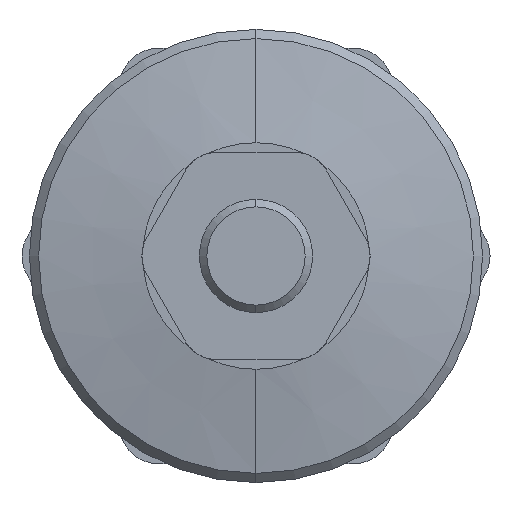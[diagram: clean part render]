
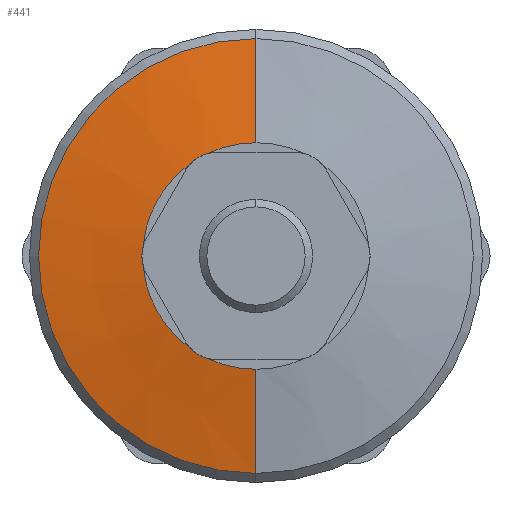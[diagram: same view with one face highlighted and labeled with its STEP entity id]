
A CAD part, left-side view. The second image highlights one B-rep face of the part: STEP entity #441.
In plain terms, the highlighted conical face has half-angle 80 degrees and reference radius 6 mm.
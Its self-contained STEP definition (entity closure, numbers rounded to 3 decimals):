
#12 = DIRECTION ( 'NONE',  ( 1., 0., 0. ) ) ;
#42 = LINE ( 'NONE', #1751, #865 ) ;
#55 = CARTESIAN_POINT ( 'NONE',  ( 11., 0., 0. ) ) ;
#68 = CARTESIAN_POINT ( 'NONE',  ( 11.486, 0., -5.757 ) ) ;
#91 = EDGE_CURVE ( 'NONE', #623, #1109, #42, .T. ) ;
#165 = CIRCLE ( 'NONE', #509, 3. ) ;
#167 = LINE ( 'NONE', #389, #955 ) ;
#185 = CARTESIAN_POINT ( 'NONE',  ( 11., 0., 3. ) ) ;
#190 = CIRCLE ( 'NONE', #1288, 3. ) ;
#200 = ORIENTED_EDGE ( 'NONE', *, *, #1835, .F. ) ;
#206 = DIRECTION ( 'NONE',  ( 0., 0., 1. ) ) ;
#229 = EDGE_LOOP ( 'NONE', ( #1782, #932, #1271, #1015, #369, #302, #598, #200, #1038, #511 ) ) ;
#268 = CARTESIAN_POINT ( 'NONE',  ( 11., 1.708, 2.466 ) ) ;
#288 = FACE_OUTER_BOUND ( 'NONE', #229, .T. ) ;
#297 = CARTESIAN_POINT ( 'NONE',  ( 11.529, 0., 0. ) ) ;
#302 = ORIENTED_EDGE ( 'NONE', *, *, #786, .F. ) ;
#324 = VERTEX_POINT ( 'NONE', #185 ) ;
#361 = CARTESIAN_POINT ( 'NONE',  ( 11.486, 0., 5.757 ) ) ;
#369 = ORIENTED_EDGE ( 'NONE', *, *, #1902, .F. ) ;
#375 = CARTESIAN_POINT ( 'NONE',  ( 11., 0., 0. ) ) ;
#389 = CARTESIAN_POINT ( 'NONE',  ( 11.529, 0., 6. ) ) ;
#432 = CARTESIAN_POINT ( 'NONE',  ( 11., 0., -3. ) ) ;
#441 = ADVANCED_FACE ( 'NONE', ( #288 ), #610, .T. ) ;
#447 = DIRECTION ( 'NONE',  ( -1., 0., 0. ) ) ;
#469 = CARTESIAN_POINT ( 'NONE',  ( 11., 0., 0. ) ) ;
#486 = DIRECTION ( 'NONE',  ( -1., 0., 0. ) ) ;
#509 = AXIS2_PLACEMENT_3D ( 'NONE', #1445, #486, #1611 ) ;
#511 = ORIENTED_EDGE ( 'NONE', *, *, #949, .F. ) ;
#527 = DIRECTION ( 'NONE',  ( 0., 0., 1. ) ) ;
#587 = DIRECTION ( 'NONE',  ( 0.174, 0., 0.985 ) ) ;
#598 = ORIENTED_EDGE ( 'NONE', *, *, #908, .F. ) ;
#610 = CONICAL_SURFACE ( 'NONE', #826, 6., 1.396 ) ;
#623 = VERTEX_POINT ( 'NONE', #432 ) ;
#634 = DIRECTION ( 'NONE',  ( 0., 0., 1. ) ) ;
#645 = DIRECTION ( 'NONE',  ( -1., 0., 0. ) ) ;
#684 = VERTEX_POINT ( 'NONE', #1608 ) ;
#759 = EDGE_CURVE ( 'NONE', #324, #1848, #167, .T. ) ;
#786 = EDGE_CURVE ( 'NONE', #941, #1603, #898, .T. ) ;
#807 = DIRECTION ( 'NONE',  ( -1., 0., 0. ) ) ;
#826 = AXIS2_PLACEMENT_3D ( 'NONE', #297, #12, #1992 ) ;
#848 = DIRECTION ( 'NONE',  ( 0.174, 0., -0.985 ) ) ;
#856 = AXIS2_PLACEMENT_3D ( 'NONE', #469, #1595, #634 ) ;
#865 = VECTOR ( 'NONE', #848, 1000. ) ;
#873 = AXIS2_PLACEMENT_3D ( 'NONE', #1403, #447, #1567 ) ;
#898 = CIRCLE ( 'NONE', #1546, 3. ) ;
#906 = CARTESIAN_POINT ( 'NONE',  ( 11., 0., 0. ) ) ;
#908 = EDGE_CURVE ( 'NONE', #1845, #941, #1074, .T. ) ;
#932 = ORIENTED_EDGE ( 'NONE', *, *, #759, .T. ) ;
#941 = VERTEX_POINT ( 'NONE', #1914 ) ;
#949 = EDGE_CURVE ( 'NONE', #956, #1541, #190, .T. ) ;
#955 = VECTOR ( 'NONE', #587, 1000. ) ;
#956 = VERTEX_POINT ( 'NONE', #1444 ) ;
#999 = EDGE_CURVE ( 'NONE', #1541, #684, #1827, .T. ) ;
#1015 = ORIENTED_EDGE ( 'NONE', *, *, #91, .F. ) ;
#1038 = ORIENTED_EDGE ( 'NONE', *, *, #999, .F. ) ;
#1068 = DIRECTION ( 'NONE',  ( 0., 0., 1. ) ) ;
#1074 = CIRCLE ( 'NONE', #856, 3. ) ;
#1109 = VERTEX_POINT ( 'NONE', #68 ) ;
#1122 = CIRCLE ( 'NONE', #1985, 3. ) ;
#1153 = DIRECTION ( 'NONE',  ( -1., 0., 0. ) ) ;
#1239 = CARTESIAN_POINT ( 'NONE',  ( 11., 1.281, -2.713 ) ) ;
#1271 = ORIENTED_EDGE ( 'NONE', *, *, #1590, .T. ) ;
#1288 = AXIS2_PLACEMENT_3D ( 'NONE', #1610, #645, #1759 ) ;
#1355 = AXIS2_PLACEMENT_3D ( 'NONE', #55, #1153, #206 ) ;
#1403 = CARTESIAN_POINT ( 'NONE',  ( 11.486, 0., 0. ) ) ;
#1444 = CARTESIAN_POINT ( 'NONE',  ( 11., 1.281, 2.713 ) ) ;
#1445 = CARTESIAN_POINT ( 'NONE',  ( 11., 0., 0. ) ) ;
#1498 = DIRECTION ( 'NONE',  ( -1., 0., 0. ) ) ;
#1541 = VERTEX_POINT ( 'NONE', #268 ) ;
#1546 = AXIS2_PLACEMENT_3D ( 'NONE', #906, #2021, #1068 ) ;
#1567 = DIRECTION ( 'NONE',  ( 0., 0., 1. ) ) ;
#1590 = EDGE_CURVE ( 'NONE', #1848, #1109, #1991, .T. ) ;
#1595 = DIRECTION ( 'NONE',  ( -1., 0., 0. ) ) ;
#1603 = VERTEX_POINT ( 'NONE', #1239 ) ;
#1608 = CARTESIAN_POINT ( 'NONE',  ( 11., 2.99, 0.247 ) ) ;
#1610 = CARTESIAN_POINT ( 'NONE',  ( 11., 0., 0. ) ) ;
#1611 = DIRECTION ( 'NONE',  ( 0., 0., 1. ) ) ;
#1617 = AXIS2_PLACEMENT_3D ( 'NONE', #1766, #807, #1926 ) ;
#1639 = CARTESIAN_POINT ( 'NONE',  ( 11., 2.99, -0.247 ) ) ;
#1651 = CIRCLE ( 'NONE', #1355, 3. ) ;
#1725 = EDGE_CURVE ( 'NONE', #324, #956, #165, .T. ) ;
#1751 = CARTESIAN_POINT ( 'NONE',  ( 11.529, 0., -6. ) ) ;
#1759 = DIRECTION ( 'NONE',  ( 0., 0., 1. ) ) ;
#1766 = CARTESIAN_POINT ( 'NONE',  ( 11., 0., 0. ) ) ;
#1782 = ORIENTED_EDGE ( 'NONE', *, *, #1725, .F. ) ;
#1827 = CIRCLE ( 'NONE', #1617, 3. ) ;
#1835 = EDGE_CURVE ( 'NONE', #684, #1845, #1651, .T. ) ;
#1845 = VERTEX_POINT ( 'NONE', #1639 ) ;
#1848 = VERTEX_POINT ( 'NONE', #361 ) ;
#1902 = EDGE_CURVE ( 'NONE', #1603, #623, #1122, .T. ) ;
#1914 = CARTESIAN_POINT ( 'NONE',  ( 11., 1.708, -2.466 ) ) ;
#1926 = DIRECTION ( 'NONE',  ( 0., 0., 1. ) ) ;
#1985 = AXIS2_PLACEMENT_3D ( 'NONE', #375, #1498, #527 ) ;
#1991 = CIRCLE ( 'NONE', #873, 5.757 ) ;
#1992 = DIRECTION ( 'NONE',  ( 0., 0., -1. ) ) ;
#2021 = DIRECTION ( 'NONE',  ( -1., 0., 0. ) ) ;
